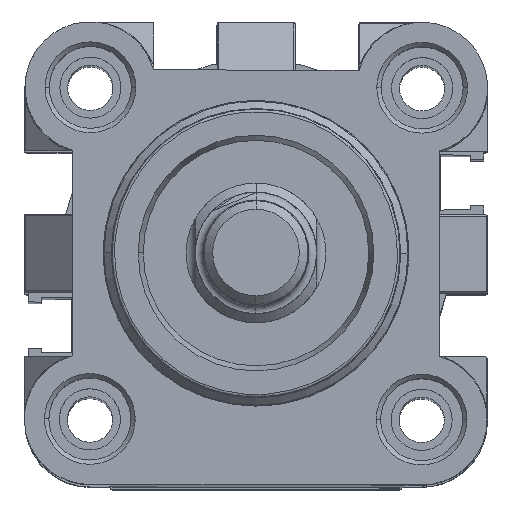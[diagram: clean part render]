
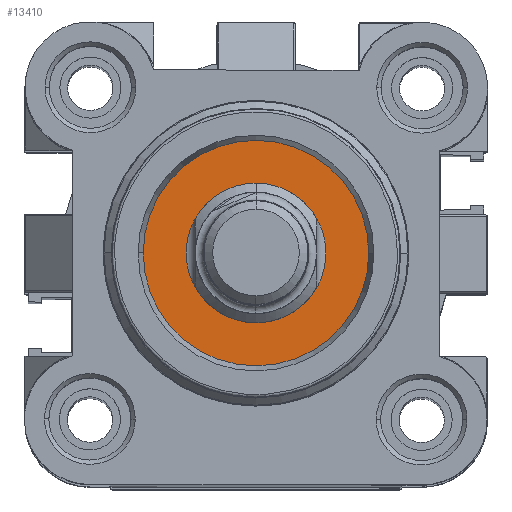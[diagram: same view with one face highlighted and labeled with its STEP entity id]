
A CAD part, top view. The second image highlights one B-rep face of the part: STEP entity #13410.
In plain terms, the highlighted planar face has unit normal (0, 0, 1) as drawn and (0, 0, -1) by its records, which use the part's own axes.
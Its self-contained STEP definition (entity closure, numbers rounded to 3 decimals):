
#264 = DIRECTION ( 'NONE',  ( -1., 0., 0. ) ) ;
#452 = EDGE_LOOP ( 'NONE', ( #5310, #12695 ) ) ;
#873 = CIRCLE ( 'NONE', #4211, 12.918 ) ;
#1142 = FACE_OUTER_BOUND ( 'NONE', #452, .T. ) ;
#1294 = DIRECTION ( 'NONE',  ( 0., 0., -1. ) ) ;
#1316 = AXIS2_PLACEMENT_3D ( 'NONE', #14369, #6791, #15531 ) ;
#1355 = ORIENTED_EDGE ( 'NONE', *, *, #10480, .F. ) ;
#1500 = EDGE_CURVE ( 'NONE', #11891, #4839, #13026, .T. ) ;
#2528 = AXIS2_PLACEMENT_3D ( 'NONE', #9283, #1294, #10619 ) ;
#3227 = DIRECTION ( 'NONE',  ( 0., 0., -1. ) ) ;
#3744 = CARTESIAN_POINT ( 'NONE',  ( 21., 29., -18.5 ) ) ;
#4104 = DIRECTION ( 'NONE',  ( 0., 1., 0. ) ) ;
#4211 = AXIS2_PLACEMENT_3D ( 'NONE', #11253, #3227, #12480 ) ;
#4222 = DIRECTION ( 'NONE',  ( 0., 0., -1. ) ) ;
#4403 = CARTESIAN_POINT ( 'NONE',  ( 21., 21., -18.5 ) ) ;
#4839 = VERTEX_POINT ( 'NONE', #13706 ) ;
#5029 = VERTEX_POINT ( 'NONE', #7442 ) ;
#5310 = ORIENTED_EDGE ( 'NONE', *, *, #11085, .T. ) ;
#5743 = VERTEX_POINT ( 'NONE', #8772 ) ;
#6791 = DIRECTION ( 'NONE',  ( 0., 0., -1. ) ) ;
#7241 = ORIENTED_EDGE ( 'NONE', *, *, #1500, .F. ) ;
#7338 = CIRCLE ( 'NONE', #2528, 8. ) ;
#7442 = CARTESIAN_POINT ( 'NONE',  ( 33.918, 21., -18.5 ) ) ;
#8257 = DIRECTION ( 'NONE',  ( 0., 0., -1. ) ) ;
#8772 = CARTESIAN_POINT ( 'NONE',  ( 8.082, 21., -18.5 ) ) ;
#9283 = CARTESIAN_POINT ( 'NONE',  ( 21., 21., -18.5 ) ) ;
#9447 = EDGE_CURVE ( 'NONE', #5029, #5743, #873, .T. ) ;
#10480 = EDGE_CURVE ( 'NONE', #4839, #11891, #7338, .T. ) ;
#10532 = FACE_BOUND ( 'NONE', #14626, .T. ) ;
#10619 = DIRECTION ( 'NONE',  ( 0., 1., 0. ) ) ;
#11085 = EDGE_CURVE ( 'NONE', #5743, #5029, #12886, .T. ) ;
#11253 = CARTESIAN_POINT ( 'NONE',  ( 21., 21., -18.5 ) ) ;
#11891 = VERTEX_POINT ( 'NONE', #3744 ) ;
#12480 = DIRECTION ( 'NONE',  ( -1., 0., 0. ) ) ;
#12695 = ORIENTED_EDGE ( 'NONE', *, *, #9447, .T. ) ;
#12886 = CIRCLE ( 'NONE', #1316, 12.918 ) ;
#13026 = CIRCLE ( 'NONE', #16186, 8. ) ;
#13410 = ADVANCED_FACE ( 'NONE', ( #10532, #1142 ), #14507, .T. ) ;
#13706 = CARTESIAN_POINT ( 'NONE',  ( 21., 13., -18.5 ) ) ;
#14369 = CARTESIAN_POINT ( 'NONE',  ( 21., 21., -18.5 ) ) ;
#14507 = PLANE ( 'NONE',  #15112 ) ;
#14626 = EDGE_LOOP ( 'NONE', ( #7241, #1355 ) ) ;
#15112 = AXIS2_PLACEMENT_3D ( 'NONE', #15687, #8257, #264 ) ;
#15531 = DIRECTION ( 'NONE',  ( -1., 0., 0. ) ) ;
#15687 = CARTESIAN_POINT ( 'NONE',  ( 34.073, 7.927, -18.5 ) ) ;
#16186 = AXIS2_PLACEMENT_3D ( 'NONE', #4403, #4222, #4104 ) ;
